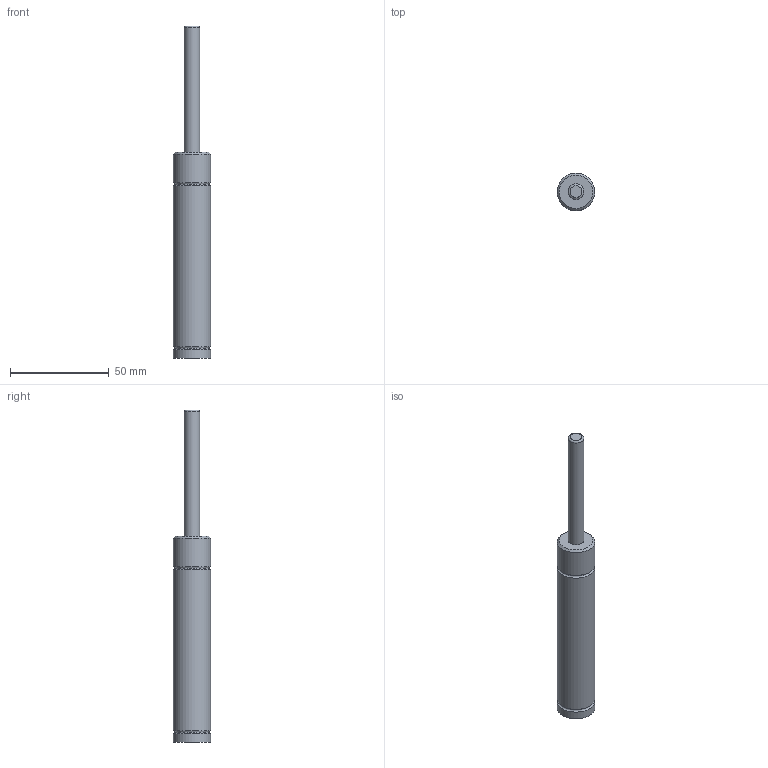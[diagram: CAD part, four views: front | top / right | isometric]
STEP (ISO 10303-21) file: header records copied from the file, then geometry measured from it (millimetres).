
FILE_DESCRIPTION(('FreeCAD Model'),'2;1');
FILE_NAME('Open CASCADE Shape Model','2024-11-14T11:13:34',('Author'),( ''),'Open CASCADE STEP processor 7.6','FreeCAD','Unknown');
FILE_SCHEMA(('AUTOMOTIVE_DESIGN { 1 0 10303 214 1 1 1 1 }'));
Length unit declared in the file: millimetre
Products named in the file (5): Unnamed; Part; Fillet; Part005; Cut001
Assembly tree (4 placements, depth 3):
  Unnamed
    Part
      Fillet
    Part005
      Cut001
Bounding box: 19 x 19 x 168 mm (x, y, z)
Volume: 32328.2 mm3; surface area: 8680.1 mm2
Topology: 2 solids, 2 shells, 16 faces, 25 edges, 14 vertices
Faces by surface type: cylinder 5, torus 5, plane 5, cone 1
Full cylindrical faces by diameter (mm): 6 x1, 8 x1, 19 x3
Entity records: 466 total; most frequent: DIRECTION 86, CARTESIAN_POINT 60, ORIENTED_EDGE 50, AXIS2_PLACEMENT_3D 40, EDGE_CURVE 25, CIRCLE 19, FACE_BOUND 17, EDGE_LOOP 17
